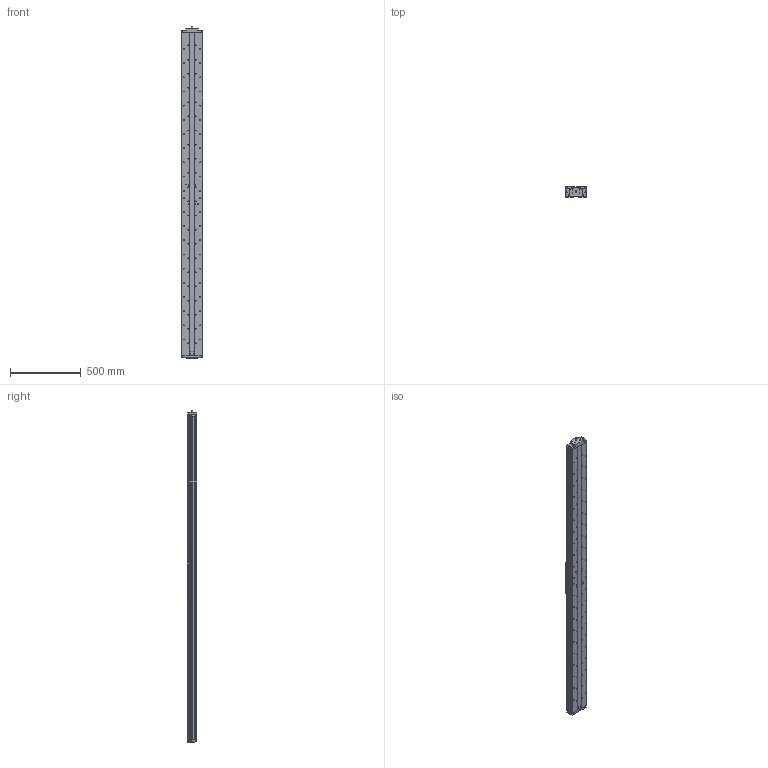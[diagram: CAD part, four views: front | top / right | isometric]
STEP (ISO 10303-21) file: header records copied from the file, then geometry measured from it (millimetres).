
FILE_DESCRIPTION((''),'2;1');
FILE_NAME('406XR-14_ASM','2002-07-12T',('FKrakosh'),(''),'PRO/ENGINEER BY PARAMETRIC TECHNOLOGY CORPORATION, 2000420','PRO/ENGINEER BY PARAMETRIC TECHNOLOGY CORPORATION, 2000420','');
FILE_SCHEMA(('CONFIG_CONTROL_DESIGN'));
Length unit declared in the file: millimetre
Products named in the file (8): 406XR-BASE-14; 406XR-REAR-END-BLK; 406XR-CARRIAGE; 10853610-01; 406XR-FEB-10MM; 10426110; 30321911; 406XR-14_ASM
Assembly tree (8 placements, depth 2):
  406XR-14_ASM
    406XR-BASE-14
    406XR-REAR-END-BLK
    406XR-CARRIAGE
    10853610-01  x2
    406XR-FEB-10MM
    10426110
    30321911
Bounding box: 150 x 69.9 x 2342.73 mm (x, y, z)
Volume: 19604991.3 mm3; surface area: 1318136.5 mm2
Topology: 8 solids, 90 shells, 1164 faces, 2828 edges, 1908 vertices
Faces by surface type: cylinder 638, plane 496, bspline 16, sphere 12, cone 2
Entity records: 33100 total; most frequent: CARTESIAN_POINT 6796, DIRECTION 5926, ORIENTED_EDGE 4822, EDGE_CURVE 2571, AXIS2_PLACEMENT_3D 2365, VERTEX_POINT 1751, EDGE_LOOP 1350, CIRCLE 1287
